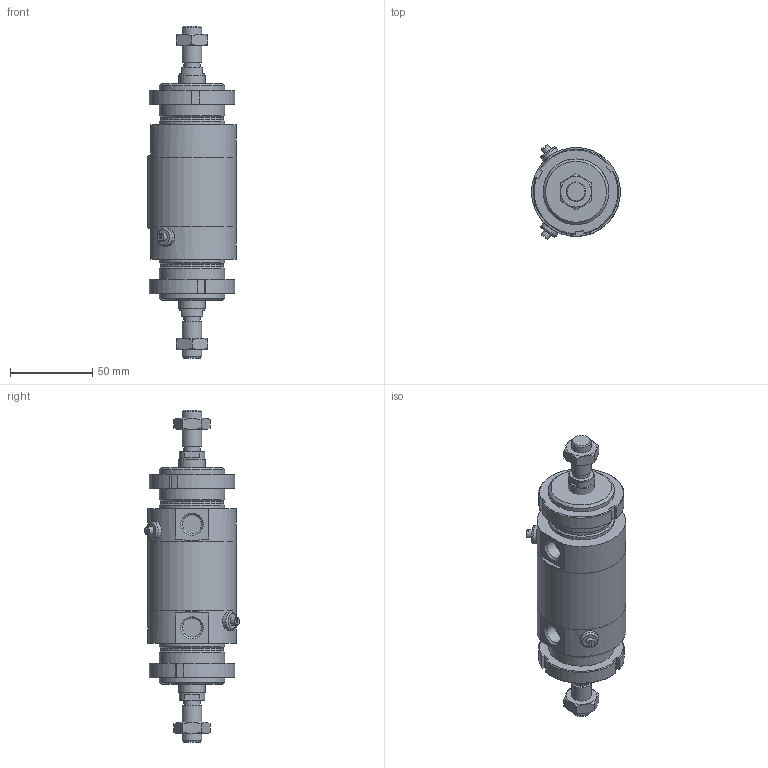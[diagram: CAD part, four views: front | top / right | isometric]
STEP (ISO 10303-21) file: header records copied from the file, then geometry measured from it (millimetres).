
FILE_DESCRIPTION(/* description */ (''),/* implementation_level */ '2;1');
FILE_NAME(/* name */ 'I:\Area Tecnica\Documenti\A-Manieri\_Inventor\12X\12X#S_###_####_#_#\12XDS_050_0000_#_#.stp',/* time_stamp */ '2015-05-13T08:20:09+02:00',/* author */ ('maniean1'),/* organization */ ('Pneumax S.p.A.'),/* preprocessor_version */ 'ST-DEVELOPER v15.2',/* originating_system */ 'Autodesk Inventor 2014',/* authorisation */ '');
FILE_SCHEMA (('AUTOMOTIVE_DESIGN { 1 0 10303 214 3 1 1 }'));
Length unit declared in the file: millimetre
Products named in the file (6): C1250_619-0000; 12X50_606; SP12X50_0000; 12X_50_11; G12X_050_05; 12XDS_050_0000_#_#
Bounding box: 54 x 57.75 x 202 mm (x, y, z)
Volume: 279052 mm3; surface area: 69359.6 mm2
Topology: 8 solids, 8 shells, 151 faces, 345 edges, 222 vertices
Faces by surface type: plane 78, cylinder 37, cone 34, torus 2
Full cylindrical faces by diameter (mm): 5 x2, 10.2 x2, 11 x2, 11.4 x2, 12 x4, 14 x2, 15.6 x2, 16 x2, 38.2 x2, 40 x6, 50 x2, 54 x3
Entity records: 2556 total; most frequent: CARTESIAN_POINT 505, DIRECTION 428, ORIENTED_EDGE 342, AXIS2_PLACEMENT_3D 182, EDGE_CURVE 171, EDGE_LOOP 144, VERTEX_POINT 129, ADVANCED_FACE 94
